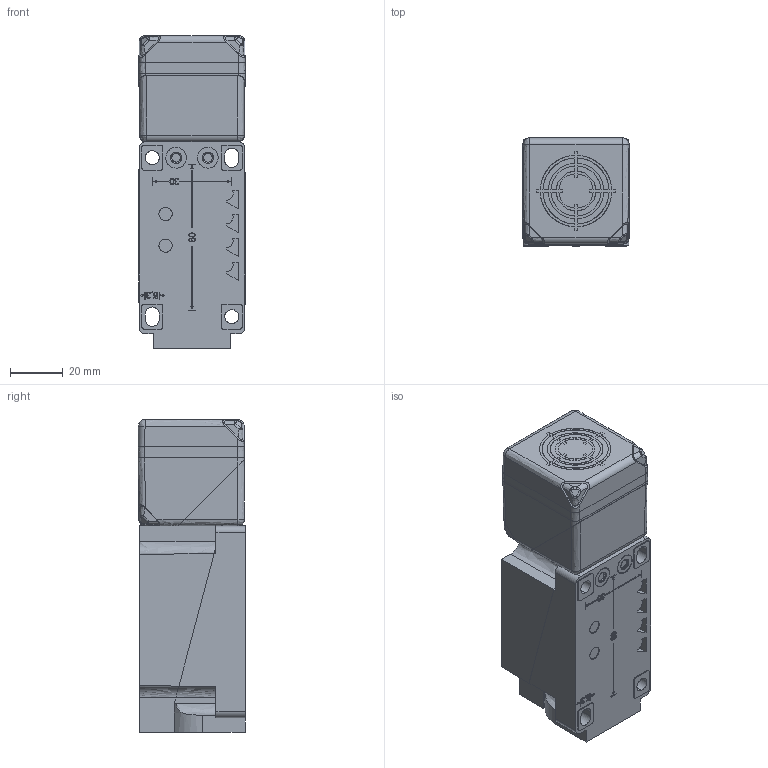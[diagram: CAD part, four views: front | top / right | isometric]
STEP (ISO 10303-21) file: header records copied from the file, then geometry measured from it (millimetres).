
FILE_DESCRIPTION((''),'2;1');
FILE_NAME('E:\temp\IS244_TB4.stp','2010-09-21T10:12:55',('User'),( 'SDRC'),'I-DEAS Master Series 9','UNIX','Yes');
FILE_SCHEMA(('CONFIG_CONTROL_DESIGN', 'GEOMETRIC_VALIDATION_PROPERTIES_MIM','SHAPE_APPEARANCE_LAYER_MIM'));
Length unit declared in the file: millimetre
Assembly tree (19 placements, depth 0):
Bounding box: 40.18 x 40.72 x 118.18 mm (x, y, z)
Volume: 80178.2 mm3; surface area: 43475.1 mm2
Topology: 13 solids, 15 shells, 932 faces, 2705 edges, 1997 vertices
Faces by surface type: bspline 932
Entity records: 30471 total; most frequent: CARTESIAN_POINT 13759, ORIENTED_EDGE 4628, EDGE_CURVE 2309, VERTEX_POINT 1530, QUASI_UNIFORM_CURVE 1266, B_SPLINE_CURVE_WITH_KNOTS 918, EDGE_LOOP 904, FACE_OUTER_BOUND 840
